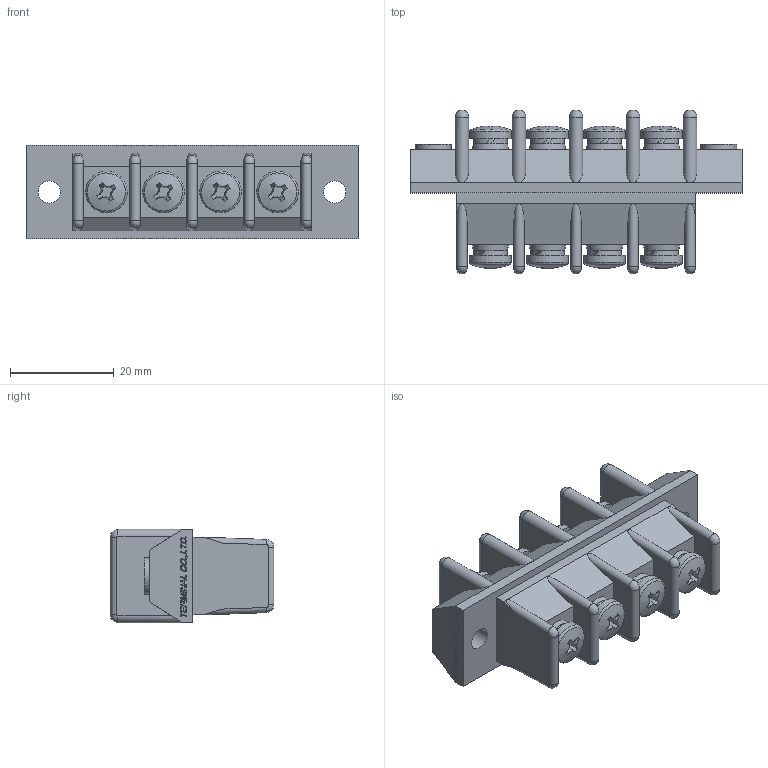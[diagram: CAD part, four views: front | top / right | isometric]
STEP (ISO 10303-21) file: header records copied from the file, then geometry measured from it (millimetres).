
FILE_DESCRIPTION(/* description */ ('Alibre Inc.'),/* implementation_level */ '2;1');
FILE_NAME(/* name */ 'export0',/* time_stamp */ '2016-01-16T17:50:58+09:00',/* author */ (''),/* organization */ (''),/* preprocessor_version */ 'ST-DEVELOPER v14',/* originating_system */ 'Alibre',/* authorisation */ '');
FILE_SCHEMA (('CONFIG_CONTROL_DESIGN'));
Length unit declared in the file: centimetre
Products named in the file (1): ID_1
Bounding box: 64 x 31.57 x 18 mm (x, y, z)
Volume: 17515.6 mm3; surface area: 8778 mm2
Topology: 1 solids, 5 shells, 719 faces, 1872 edges, 1238 vertices
Faces by surface type: plane 469, bspline 104, cylinder 62, cone 48, torus 28, sphere 8
Full cylindrical faces by diameter (mm): 4 x4, 4.3 x2, 6.5 x8, 7 x2, 8 x8
Entity records: 21524 total; most frequent: CARTESIAN_POINT 4954, ORIENTED_EDGE 3652, DIRECTION 2713, EDGE_CURVE 1826, VERTEX_POINT 1232, VECTOR 1122, LINE 1122, AXIS2_PLACEMENT_3D 1032
